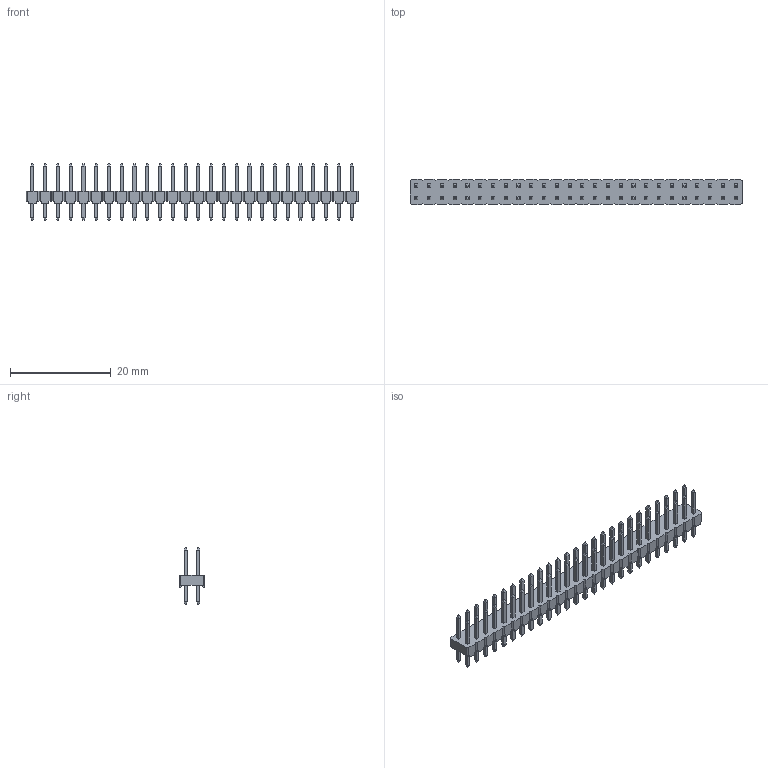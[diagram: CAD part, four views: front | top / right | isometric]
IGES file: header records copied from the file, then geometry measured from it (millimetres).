
Global section: file name: N:\GOLF_VI_2_54mm_UGII\961XXX-6X04-XX (TS-2181)\961252-6404-XX.igs; native system: NX V3.0; preprocessor: UGS NX IGES V4.0; date: 20070618.131115; units: millimetre
Bounding box: 66.04 x 5 x 11.3 mm (x, y, z)
Surface area: 2195.2 mm2 (no closed solid volume)
Topology: 0 solids, 0 shells, 1358 faces, 6681 edges, 6681 vertices
Faces by surface type: bspline 1358
